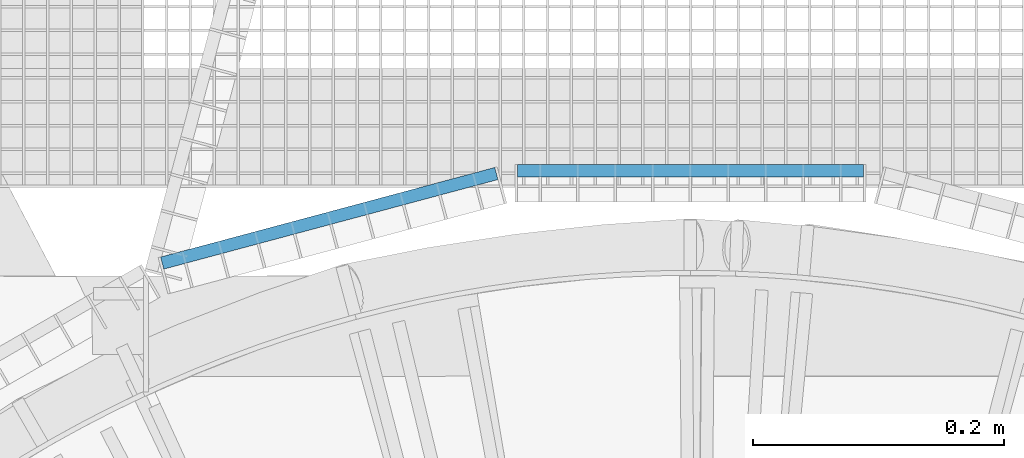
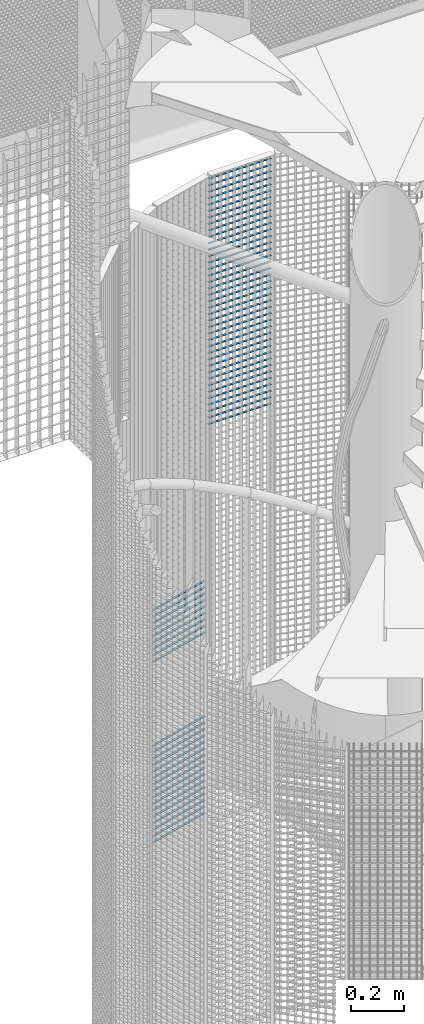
# One storey, part 318 of 1183: 64 beams, 2 elements without a shape of their own.
"""IFC2X3 building model written with IfcOpenShell, lengths in millimetres."""

from ifc_helpers import new_model, si_unit, frame, origin_with_axes, origin_2d_with_axis, place, context, subcontext, project, spatial, rectangle, extrude, material, type_object, element, aggregate, save


model = new_model("IFC2X3")

# Units and contexts
model_context = context("Model", 3, precision=1e-05, world=origin_with_axes())
body_context = subcontext(model_context, "Body", "Model", "MODEL_VIEW")
ifc_project = project(units=[si_unit("LENGTHUNIT", "METRE", prefix="MILLI"), si_unit("AREAUNIT", "SQUARE_METRE"), si_unit("VOLUMEUNIT", "CUBIC_METRE"), si_unit("MASSUNIT", "GRAM", prefix="KILO"), si_unit("TIMEUNIT", "SECOND"), si_unit("PLANEANGLEUNIT", "RADIAN"), si_unit("SOLIDANGLEUNIT", "STERADIAN"), si_unit("THERMODYNAMICTEMPERATUREUNIT", "DEGREE_CELSIUS"), si_unit("LUMINOUSINTENSITYUNIT", "LUMEN")], contexts=[model_context])

# Site, building, storey
site_placement = place(None, origin_with_axes())
site = spatial("IfcSite", under=ifc_project, at=site_placement, Name="Undefined", CompositionType="ELEMENT")
building_placement = place(site_placement, origin_with_axes())
building = spatial("IfcBuilding", under=site, at=building_placement, Name="Undefined", CompositionType="ELEMENT")
storey_placement = place(building_placement, origin_with_axes())
storey = spatial("IfcBuildingStorey", under=building, at=storey_placement, Name="Undefined", CompositionType="ELEMENT", Elevation=0.0)

# Assembly, beams
assembly_1_placement = place(storey_placement, origin_with_axes())
assembly_1 = element("IfcElementAssembly", 1, at=assembly_1_placement, inside=storey, Name="BORDURE", AssemblyPlace="NOTDEFINED", PredefinedType="NOTDEFINED")
ifc_material = material(Name="STEEL/S235JR")
beam_type = type_object("IfcBeamType", Name="PL2*10", PredefinedType="NOTDEFINED")
beam_1_placement = place(assembly_1_placement, frame((-154.895926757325, 1111.25508286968, 3480.0), z_axis=(-0.258819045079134, 0.965925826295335, 0.0), x_axis=(-0.965925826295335, -0.258819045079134, 0.0)))
beam_1 = element("IfcBeam", 2, at=beam_1_placement, type_object=beam_type, material=ifc_material, Name="ENTRETOISE", context=body_context, shape_type="SweptSolid", body=[
    extrude(rectangle(XDim=2.0, YDim=10.0, at=origin_2d_with_axis()), frame((275.999999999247, 9.09494701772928e-13, 1.53210777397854e-14), z_axis=(-1.0, 0.0, 0.0), x_axis=(0.0, -1.0, 0.0)), (0.0, 0.0, 1.0), 276.0),
])
beam_2_placement = place(assembly_1_placement, frame((-154.895926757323, 1111.25508286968, 3870.0), z_axis=(-0.258819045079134, 0.965925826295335, 0.0), x_axis=(-0.965925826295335, -0.258819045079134, 0.0)))
beam_2 = element("IfcBeam", 3, at=beam_2_placement, type_object=beam_type, material=ifc_material, Name="ENTRETOISE", context=body_context, shape_type="SweptSolid", body=[
    extrude(rectangle(XDim=2.0, YDim=10.0, at=origin_2d_with_axis()), frame((275.999999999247, 9.09494701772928e-13, 1.53210777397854e-14), z_axis=(-1.0, 0.0, 0.0), x_axis=(0.0, -1.0, 0.0)), (0.0, 0.0, 1.0), 276.0),
])
beam_3_placement = place(assembly_1_placement, frame((-154.895926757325, 1111.25508286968, 3450.0), z_axis=(-0.258819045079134, 0.965925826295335, 0.0), x_axis=(-0.965925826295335, -0.258819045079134, 0.0)))
beam_3 = element("IfcBeam", 4, at=beam_3_placement, type_object=beam_type, material=ifc_material, Name="ENTRETOISE", context=body_context, shape_type="SweptSolid", body=[
    extrude(rectangle(XDim=2.0, YDim=10.0, at=origin_2d_with_axis()), frame((275.999999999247, 9.09494701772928e-13, 1.53210777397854e-14), z_axis=(-1.0, 0.0, 0.0), x_axis=(0.0, -1.0, 0.0)), (0.0, 0.0, 1.0), 276.0),
])
beam_4_placement = place(assembly_1_placement, frame((-154.895926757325, 1111.25508286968, 3420.0), z_axis=(-0.258819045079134, 0.965925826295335, 0.0), x_axis=(-0.965925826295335, -0.258819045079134, 0.0)))
beam_4 = element("IfcBeam", 5, at=beam_4_placement, type_object=beam_type, material=ifc_material, Name="ENTRETOISE", context=body_context, shape_type="SweptSolid", body=[
    extrude(rectangle(XDim=2.0, YDim=10.0, at=origin_2d_with_axis()), frame((275.999999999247, 9.09494701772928e-13, 1.53210777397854e-14), z_axis=(-1.0, 0.0, 0.0), x_axis=(0.0, -1.0, 0.0)), (0.0, 0.0, 1.0), 276.0),
])
beam_5_placement = place(assembly_1_placement, frame((-154.895926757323, 1111.25508286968, 3900.0), z_axis=(-0.258819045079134, 0.965925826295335, 0.0), x_axis=(-0.965925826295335, -0.258819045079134, 0.0)))
beam_5 = element("IfcBeam", 6, at=beam_5_placement, type_object=beam_type, material=ifc_material, Name="ENTRETOISE", context=body_context, shape_type="SweptSolid", body=[
    extrude(rectangle(XDim=2.0, YDim=10.0, at=origin_2d_with_axis()), frame((275.999999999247, 9.09494701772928e-13, 1.53210777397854e-14), z_axis=(-1.0, 0.0, 0.0), x_axis=(0.0, -1.0, 0.0)), (0.0, 0.0, 1.0), 276.0),
])
beam_6_placement = place(assembly_1_placement, frame((-154.895926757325, 1111.25508286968, 3390.0), z_axis=(-0.258819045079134, 0.965925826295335, 0.0), x_axis=(-0.965925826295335, -0.258819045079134, 0.0)))
beam_6 = element("IfcBeam", 7, at=beam_6_placement, type_object=beam_type, material=ifc_material, Name="ENTRETOISE", context=body_context, shape_type="SweptSolid", body=[
    extrude(rectangle(XDim=2.0, YDim=10.0, at=origin_2d_with_axis()), frame((275.999999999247, 9.09494701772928e-13, 1.53210777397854e-14), z_axis=(-1.0, 0.0, 0.0), x_axis=(0.0, -1.0, 0.0)), (0.0, 0.0, 1.0), 276.0),
])
beam_7_placement = place(assembly_1_placement, frame((-154.895926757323, 1111.25508286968, 3930.0), z_axis=(-0.258819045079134, 0.965925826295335, 0.0), x_axis=(-0.965925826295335, -0.258819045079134, 0.0)))
beam_7 = element("IfcBeam", 8, at=beam_7_placement, type_object=beam_type, material=ifc_material, Name="ENTRETOISE", context=body_context, shape_type="SweptSolid", body=[
    extrude(rectangle(XDim=2.0, YDim=10.0, at=origin_2d_with_axis()), frame((275.999999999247, 9.09494701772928e-13, 1.53210777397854e-14), z_axis=(-1.0, 0.0, 0.0), x_axis=(0.0, -1.0, 0.0)), (0.0, 0.0, 1.0), 276.0),
])
beam_8_placement = place(assembly_1_placement, frame((-154.895926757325, 1111.25508286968, 3360.0), z_axis=(-0.258819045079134, 0.965925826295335, 0.0), x_axis=(-0.965925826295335, -0.258819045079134, 0.0)))
beam_8 = element("IfcBeam", 9, at=beam_8_placement, type_object=beam_type, material=ifc_material, Name="ENTRETOISE", context=body_context, shape_type="SweptSolid", body=[
    extrude(rectangle(XDim=2.0, YDim=10.0, at=origin_2d_with_axis()), frame((275.999999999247, 9.09494701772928e-13, 1.53210777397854e-14), z_axis=(-1.0, 0.0, 0.0), x_axis=(0.0, -1.0, 0.0)), (0.0, 0.0, 1.0), 276.0),
])
beam_9_placement = place(assembly_1_placement, frame((-154.895926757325, 1111.25508286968, 3330.0), z_axis=(-0.258819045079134, 0.965925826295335, 0.0), x_axis=(-0.965925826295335, -0.258819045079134, 0.0)))
beam_9 = element("IfcBeam", 10, at=beam_9_placement, type_object=beam_type, material=ifc_material, Name="ENTRETOISE", context=body_context, shape_type="SweptSolid", body=[
    extrude(rectangle(XDim=2.0, YDim=10.0, at=origin_2d_with_axis()), frame((275.999999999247, 9.09494701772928e-13, 1.53210777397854e-14), z_axis=(-1.0, 0.0, 0.0), x_axis=(0.0, -1.0, 0.0)), (0.0, 0.0, 1.0), 276.0),
])
beam_10_placement = place(assembly_1_placement, frame((-154.895926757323, 1111.25508286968, 3960.0), z_axis=(-0.258819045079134, 0.965925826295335, 0.0), x_axis=(-0.965925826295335, -0.258819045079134, 0.0)))
beam_10 = element("IfcBeam", 11, at=beam_10_placement, type_object=beam_type, material=ifc_material, Name="ENTRETOISE", context=body_context, shape_type="SweptSolid", body=[
    extrude(rectangle(XDim=2.0, YDim=10.0, at=origin_2d_with_axis()), frame((275.999999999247, 9.09494701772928e-13, 1.53210777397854e-14), z_axis=(-1.0, 0.0, 0.0), x_axis=(0.0, -1.0, 0.0)), (0.0, 0.0, 1.0), 276.0),
])
beam_11_placement = place(assembly_1_placement, frame((-154.895926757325, 1111.25508286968, 3300.0), z_axis=(-0.258819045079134, 0.965925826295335, 0.0), x_axis=(-0.965925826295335, -0.258819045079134, 0.0)))
beam_11 = element("IfcBeam", 12, at=beam_11_placement, type_object=beam_type, material=ifc_material, Name="ENTRETOISE", context=body_context, shape_type="SweptSolid", body=[
    extrude(rectangle(XDim=2.0, YDim=10.0, at=origin_2d_with_axis()), frame((275.999999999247, 9.09494701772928e-13, 1.53210777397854e-14), z_axis=(-1.0, 0.0, 0.0), x_axis=(0.0, -1.0, 0.0)), (0.0, 0.0, 1.0), 276.0),
])
beam_12_placement = place(assembly_1_placement, frame((-154.895926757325, 1111.25508286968, 3270.0), z_axis=(-0.258819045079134, 0.965925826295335, 0.0), x_axis=(-0.965925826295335, -0.258819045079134, 0.0)))
beam_12 = element("IfcBeam", 13, at=beam_12_placement, type_object=beam_type, material=ifc_material, Name="ENTRETOISE", context=body_context, shape_type="SweptSolid", body=[
    extrude(rectangle(XDim=2.0, YDim=10.0, at=origin_2d_with_axis()), frame((275.999999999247, 9.09494701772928e-13, 1.53210777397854e-14), z_axis=(-1.0, 0.0, 0.0), x_axis=(0.0, -1.0, 0.0)), (0.0, 0.0, 1.0), 276.0),
])
beam_13_placement = place(assembly_1_placement, frame((-154.895926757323, 1111.25508286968, 3990.0), z_axis=(-0.258819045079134, 0.965925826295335, 0.0), x_axis=(-0.965925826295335, -0.258819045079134, 0.0)))
beam_13 = element("IfcBeam", 14, at=beam_13_placement, type_object=beam_type, material=ifc_material, Name="ENTRETOISE", context=body_context, shape_type="SweptSolid", body=[
    extrude(rectangle(XDim=2.0, YDim=10.0, at=origin_2d_with_axis()), frame((275.999999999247, 9.09494701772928e-13, 1.53210777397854e-14), z_axis=(-1.0, 0.0, 0.0), x_axis=(0.0, -1.0, 0.0)), (0.0, 0.0, 1.0), 276.0),
])
beam_14_placement = place(assembly_1_placement, frame((-154.895926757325, 1111.25508286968, 3240.0), z_axis=(-0.258819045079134, 0.965925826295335, 0.0), x_axis=(-0.965925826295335, -0.258819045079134, 0.0)))
beam_14 = element("IfcBeam", 15, at=beam_14_placement, type_object=beam_type, material=ifc_material, Name="ENTRETOISE", context=body_context, shape_type="SweptSolid", body=[
    extrude(rectangle(XDim=2.0, YDim=10.0, at=origin_2d_with_axis()), frame((275.999999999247, 9.09494701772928e-13, 1.53210777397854e-14), z_axis=(-1.0, 0.0, 0.0), x_axis=(0.0, -1.0, 0.0)), (0.0, 0.0, 1.0), 276.0),
])
beam_15_placement = place(assembly_1_placement, frame((-154.895926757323, 1111.25508286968, 4020.0), z_axis=(-0.258819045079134, 0.965925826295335, 0.0), x_axis=(-0.965925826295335, -0.258819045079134, 0.0)))
beam_15 = element("IfcBeam", 16, at=beam_15_placement, type_object=beam_type, material=ifc_material, Name="ENTRETOISE", context=body_context, shape_type="SweptSolid", body=[
    extrude(rectangle(XDim=2.0, YDim=10.0, at=origin_2d_with_axis()), frame((275.999999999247, 9.09494701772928e-13, 1.53210777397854e-14), z_axis=(-1.0, 0.0, 0.0), x_axis=(0.0, -1.0, 0.0)), (0.0, 0.0, 1.0), 276.0),
])
beam_16_placement = place(assembly_1_placement, frame((-154.895926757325, 1111.25508286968, 3210.0), z_axis=(-0.258819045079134, 0.965925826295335, 0.0), x_axis=(-0.965925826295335, -0.258819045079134, 0.0)))
beam_16 = element("IfcBeam", 17, at=beam_16_placement, type_object=beam_type, material=ifc_material, Name="ENTRETOISE", context=body_context, shape_type="SweptSolid", body=[
    extrude(rectangle(XDim=2.0, YDim=10.0, at=origin_2d_with_axis()), frame((275.999999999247, 9.09494701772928e-13, 1.53210777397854e-14), z_axis=(-1.0, 0.0, 0.0), x_axis=(0.0, -1.0, 0.0)), (0.0, 0.0, 1.0), 276.0),
])
beam_17_placement = place(assembly_1_placement, frame((-154.895926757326, 1111.25508286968, 3180.0), z_axis=(-0.258819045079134, 0.965925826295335, 0.0), x_axis=(-0.965925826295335, -0.258819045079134, 0.0)))
beam_17 = element("IfcBeam", 18, at=beam_17_placement, type_object=beam_type, material=ifc_material, Name="ENTRETOISE", context=body_context, shape_type="SweptSolid", body=[
    extrude(rectangle(XDim=2.0, YDim=10.0, at=origin_2d_with_axis()), frame((275.999999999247, 9.09494701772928e-13, 1.53210777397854e-14), z_axis=(-1.0, 0.0, 0.0), x_axis=(0.0, -1.0, 0.0)), (0.0, 0.0, 1.0), 276.0),
])
beam_18_placement = place(assembly_1_placement, frame((-154.895926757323, 1111.25508286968, 4050.0), z_axis=(-0.258819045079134, 0.965925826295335, 0.0), x_axis=(-0.965925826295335, -0.258819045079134, 0.0)))
beam_18 = element("IfcBeam", 19, at=beam_18_placement, type_object=beam_type, material=ifc_material, Name="ENTRETOISE", context=body_context, shape_type="SweptSolid", body=[
    extrude(rectangle(XDim=2.0, YDim=10.0, at=origin_2d_with_axis()), frame((275.999999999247, 9.09494701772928e-13, 1.53210777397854e-14), z_axis=(-1.0, 0.0, 0.0), x_axis=(0.0, -1.0, 0.0)), (0.0, 0.0, 1.0), 276.0),
])
beam_19_placement = place(assembly_1_placement, frame((-154.895926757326, 1111.25508286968, 3150.0), z_axis=(-0.258819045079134, 0.965925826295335, 0.0), x_axis=(-0.965925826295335, -0.258819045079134, 0.0)))
beam_19 = element("IfcBeam", 20, at=beam_19_placement, type_object=beam_type, material=ifc_material, Name="ENTRETOISE", context=body_context, shape_type="SweptSolid", body=[
    extrude(rectangle(XDim=2.0, YDim=10.0, at=origin_2d_with_axis()), frame((275.999999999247, 9.09494701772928e-13, 1.53210777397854e-14), z_axis=(-1.0, 0.0, 0.0), x_axis=(0.0, -1.0, 0.0)), (0.0, 0.0, 1.0), 276.0),
])
beam_20_placement = place(assembly_1_placement, frame((-154.895926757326, 1111.25508286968, 3120.0), z_axis=(-0.258819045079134, 0.965925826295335, 0.0), x_axis=(-0.965925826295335, -0.258819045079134, 0.0)))
beam_20 = element("IfcBeam", 21, at=beam_20_placement, type_object=beam_type, material=ifc_material, Name="ENTRETOISE", context=body_context, shape_type="SweptSolid", body=[
    extrude(rectangle(XDim=2.0, YDim=10.0, at=origin_2d_with_axis()), frame((275.999999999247, 9.09494701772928e-13, 1.53210777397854e-14), z_axis=(-1.0, 0.0, 0.0), x_axis=(0.0, -1.0, 0.0)), (0.0, 0.0, 1.0), 276.0),
])
beam_21_placement = place(assembly_1_placement, frame((-154.895926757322, 1111.25508286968, 4080.0), z_axis=(-0.258819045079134, 0.965925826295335, 0.0), x_axis=(-0.965925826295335, -0.258819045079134, 0.0)))
beam_21 = element("IfcBeam", 22, at=beam_21_placement, type_object=beam_type, material=ifc_material, Name="ENTRETOISE", context=body_context, shape_type="SweptSolid", body=[
    extrude(rectangle(XDim=2.0, YDim=10.0, at=origin_2d_with_axis()), frame((275.999999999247, 9.09494701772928e-13, 1.53210777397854e-14), z_axis=(-1.0, 0.0, 0.0), x_axis=(0.0, -1.0, 0.0)), (0.0, 0.0, 1.0), 276.0),
])
beam_22_placement = place(assembly_1_placement, frame((-154.895926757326, 1111.25508286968, 3090.0), z_axis=(-0.258819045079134, 0.965925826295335, 0.0), x_axis=(-0.965925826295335, -0.258819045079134, 0.0)))
beam_22 = element("IfcBeam", 23, at=beam_22_placement, type_object=beam_type, material=ifc_material, Name="ENTRETOISE", context=body_context, shape_type="SweptSolid", body=[
    extrude(rectangle(XDim=2.0, YDim=10.0, at=origin_2d_with_axis()), frame((275.999999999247, 9.09494701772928e-13, 1.53210777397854e-14), z_axis=(-1.0, 0.0, 0.0), x_axis=(0.0, -1.0, 0.0)), (0.0, 0.0, 1.0), 276.0),
])
beam_23_placement = place(assembly_1_placement, frame((-154.895926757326, 1111.25508286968, 3060.0), z_axis=(-0.258819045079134, 0.965925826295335, 0.0), x_axis=(-0.965925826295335, -0.258819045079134, 0.0)))
beam_23 = element("IfcBeam", 24, at=beam_23_placement, type_object=beam_type, material=ifc_material, Name="ENTRETOISE", context=body_context, shape_type="SweptSolid", body=[
    extrude(rectangle(XDim=2.0, YDim=10.0, at=origin_2d_with_axis()), frame((275.999999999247, 9.09494701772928e-13, 1.53210777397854e-14), z_axis=(-1.0, 0.0, 0.0), x_axis=(0.0, -1.0, 0.0)), (0.0, 0.0, 1.0), 276.0),
])
beam_24_placement = place(assembly_1_placement, frame((-154.895926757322, 1111.25508286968, 4110.0), z_axis=(-0.258819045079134, 0.965925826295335, 0.0), x_axis=(-0.965925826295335, -0.258819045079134, 0.0)))
beam_24 = element("IfcBeam", 25, at=beam_24_placement, type_object=beam_type, material=ifc_material, Name="ENTRETOISE", context=body_context, shape_type="SweptSolid", body=[
    extrude(rectangle(XDim=2.0, YDim=10.0, at=origin_2d_with_axis()), frame((275.999999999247, 9.09494701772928e-13, 1.53210777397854e-14), z_axis=(-1.0, 0.0, 0.0), x_axis=(0.0, -1.0, 0.0)), (0.0, 0.0, 1.0), 276.0),
])
beam_25_placement = place(assembly_1_placement, frame((-154.895926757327, 1111.25508286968, 3030.0), z_axis=(-0.258819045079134, 0.965925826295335, 0.0), x_axis=(-0.965925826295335, -0.258819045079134, 0.0)))
beam_25 = element("IfcBeam", 26, at=beam_25_placement, type_object=beam_type, material=ifc_material, Name="ENTRETOISE", context=body_context, shape_type="SweptSolid", body=[
    extrude(rectangle(XDim=2.0, YDim=10.0, at=origin_2d_with_axis()), frame((275.999999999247, 9.09494701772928e-13, 1.53210777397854e-14), z_axis=(-1.0, 0.0, 0.0), x_axis=(0.0, -1.0, 0.0)), (0.0, 0.0, 1.0), 276.0),
])
aggregate(assembly_1, [beam_1, beam_2, beam_3, beam_4, beam_5, beam_6, beam_7, beam_8, beam_9, beam_10, beam_11, beam_12, beam_13, beam_14, beam_15, beam_16, beam_17, beam_18, beam_19, beam_20, beam_21, beam_22, beam_23, beam_24, beam_25])

assembly_2_placement = place(storey_placement, origin_with_axes())
assembly_2 = element("IfcElementAssembly", 27, at=assembly_2_placement, inside=storey, Name="BORDURE", AssemblyPlace="NOTDEFINED", PredefinedType="NOTDEFINED")
beam_26_placement = place(assembly_2_placement, frame((137.996003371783, 1113.47999999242, 5970.0), z_axis=(0.0, 1.0, 0.0), x_axis=(-1.0, 0.0, 0.0)))
beam_26 = element("IfcBeam", 28, at=beam_26_placement, type_object=beam_type, material=ifc_material, Name="ENTRETOISE", context=body_context, shape_type="SweptSolid", body=[
    extrude(rectangle(XDim=2.0, YDim=10.0, at=origin_2d_with_axis()), frame((275.999999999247, 9.09494701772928e-13, 1.53210777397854e-14), z_axis=(-1.0, 0.0, 0.0), x_axis=(0.0, -1.0, 0.0)), (0.0, 0.0, 1.0), 276.0),
])
beam_27_placement = place(assembly_2_placement, frame((137.996003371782, 1113.47999999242, 5940.0), z_axis=(0.0, 1.0, 0.0), x_axis=(-1.0, 0.0, 0.0)))
beam_27 = element("IfcBeam", 29, at=beam_27_placement, type_object=beam_type, material=ifc_material, Name="ENTRETOISE", context=body_context, shape_type="SweptSolid", body=[
    extrude(rectangle(XDim=2.0, YDim=10.0, at=origin_2d_with_axis()), frame((275.999999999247, 9.09494701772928e-13, 1.53210777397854e-14), z_axis=(-1.0, 0.0, 0.0), x_axis=(0.0, -1.0, 0.0)), (0.0, 0.0, 1.0), 276.0),
])
beam_28_placement = place(assembly_2_placement, frame((137.996003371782, 1113.47999999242, 5910.0), z_axis=(0.0, 1.0, 0.0), x_axis=(-1.0, 0.0, 0.0)))
beam_28 = element("IfcBeam", 30, at=beam_28_placement, type_object=beam_type, material=ifc_material, Name="ENTRETOISE", context=body_context, shape_type="SweptSolid", body=[
    extrude(rectangle(XDim=2.0, YDim=10.0, at=origin_2d_with_axis()), frame((275.999999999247, 9.09494701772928e-13, 1.53210777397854e-14), z_axis=(-1.0, 0.0, 0.0), x_axis=(0.0, -1.0, 0.0)), (0.0, 0.0, 1.0), 276.0),
])
beam_29_placement = place(assembly_2_placement, frame((137.996003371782, 1113.47999999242, 5880.0), z_axis=(0.0, 1.0, 0.0), x_axis=(-1.0, 0.0, 0.0)))
beam_29 = element("IfcBeam", 31, at=beam_29_placement, type_object=beam_type, material=ifc_material, Name="ENTRETOISE", context=body_context, shape_type="SweptSolid", body=[
    extrude(rectangle(XDim=2.0, YDim=10.0, at=origin_2d_with_axis()), frame((275.999999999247, 9.09494701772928e-13, 1.53210777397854e-14), z_axis=(-1.0, 0.0, 0.0), x_axis=(0.0, -1.0, 0.0)), (0.0, 0.0, 1.0), 276.0),
])
beam_30_placement = place(assembly_2_placement, frame((137.996003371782, 1113.47999999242, 5850.0), z_axis=(0.0, 1.0, 0.0), x_axis=(-1.0, 0.0, 0.0)))
beam_30 = element("IfcBeam", 32, at=beam_30_placement, type_object=beam_type, material=ifc_material, Name="ENTRETOISE", context=body_context, shape_type="SweptSolid", body=[
    extrude(rectangle(XDim=2.0, YDim=10.0, at=origin_2d_with_axis()), frame((275.999999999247, 9.09494701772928e-13, 1.53210777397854e-14), z_axis=(-1.0, 0.0, 0.0), x_axis=(0.0, -1.0, 0.0)), (0.0, 0.0, 1.0), 276.0),
])
beam_31_placement = place(assembly_2_placement, frame((137.996003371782, 1113.47999999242, 5820.0), z_axis=(0.0, 1.0, 0.0), x_axis=(-1.0, 0.0, 0.0)))
beam_31 = element("IfcBeam", 33, at=beam_31_placement, type_object=beam_type, material=ifc_material, Name="ENTRETOISE", context=body_context, shape_type="SweptSolid", body=[
    extrude(rectangle(XDim=2.0, YDim=10.0, at=origin_2d_with_axis()), frame((275.999999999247, 9.09494701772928e-13, 1.53210777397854e-14), z_axis=(-1.0, 0.0, 0.0), x_axis=(0.0, -1.0, 0.0)), (0.0, 0.0, 1.0), 276.0),
])
beam_32_placement = place(assembly_2_placement, frame((137.996003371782, 1113.47999999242, 5790.0), z_axis=(0.0, 1.0, 0.0), x_axis=(-1.0, 0.0, 0.0)))
beam_32 = element("IfcBeam", 34, at=beam_32_placement, type_object=beam_type, material=ifc_material, Name="ENTRETOISE", context=body_context, shape_type="SweptSolid", body=[
    extrude(rectangle(XDim=2.0, YDim=10.0, at=origin_2d_with_axis()), frame((275.999999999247, 9.09494701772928e-13, 1.53210777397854e-14), z_axis=(-1.0, 0.0, 0.0), x_axis=(0.0, -1.0, 0.0)), (0.0, 0.0, 1.0), 276.0),
])
beam_33_placement = place(assembly_2_placement, frame((137.996003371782, 1113.47999999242, 5760.0), z_axis=(0.0, 1.0, 0.0), x_axis=(-1.0, 0.0, 0.0)))
beam_33 = element("IfcBeam", 35, at=beam_33_placement, type_object=beam_type, material=ifc_material, Name="ENTRETOISE", context=body_context, shape_type="SweptSolid", body=[
    extrude(rectangle(XDim=2.0, YDim=10.0, at=origin_2d_with_axis()), frame((275.999999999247, 9.09494701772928e-13, 1.53210777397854e-14), z_axis=(-1.0, 0.0, 0.0), x_axis=(0.0, -1.0, 0.0)), (0.0, 0.0, 1.0), 276.0),
])
beam_34_placement = place(assembly_2_placement, frame((137.996003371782, 1113.47999999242, 5730.0), z_axis=(0.0, 1.0, 0.0), x_axis=(-1.0, 0.0, 0.0)))
beam_34 = element("IfcBeam", 36, at=beam_34_placement, type_object=beam_type, material=ifc_material, Name="ENTRETOISE", context=body_context, shape_type="SweptSolid", body=[
    extrude(rectangle(XDim=2.0, YDim=10.0, at=origin_2d_with_axis()), frame((275.999999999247, 9.09494701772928e-13, 1.53210777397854e-14), z_axis=(-1.0, 0.0, 0.0), x_axis=(0.0, -1.0, 0.0)), (0.0, 0.0, 1.0), 276.0),
])
beam_35_placement = place(assembly_2_placement, frame((137.996003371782, 1113.47999999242, 5700.0), z_axis=(0.0, 1.0, 0.0), x_axis=(-1.0, 0.0, 0.0)))
beam_35 = element("IfcBeam", 37, at=beam_35_placement, type_object=beam_type, material=ifc_material, Name="ENTRETOISE", context=body_context, shape_type="SweptSolid", body=[
    extrude(rectangle(XDim=2.0, YDim=10.0, at=origin_2d_with_axis()), frame((275.999999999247, 9.09494701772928e-13, 1.53210777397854e-14), z_axis=(-1.0, 0.0, 0.0), x_axis=(0.0, -1.0, 0.0)), (0.0, 0.0, 1.0), 276.0),
])
beam_36_placement = place(assembly_2_placement, frame((137.996003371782, 1113.47999999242, 5670.0), z_axis=(0.0, 1.0, 0.0), x_axis=(-1.0, 0.0, 0.0)))
beam_36 = element("IfcBeam", 38, at=beam_36_placement, type_object=beam_type, material=ifc_material, Name="ENTRETOISE", context=body_context, shape_type="SweptSolid", body=[
    extrude(rectangle(XDim=2.0, YDim=10.0, at=origin_2d_with_axis()), frame((275.999999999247, 9.09494701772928e-13, 1.53210777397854e-14), z_axis=(-1.0, 0.0, 0.0), x_axis=(0.0, -1.0, 0.0)), (0.0, 0.0, 1.0), 276.0),
])
beam_37_placement = place(assembly_2_placement, frame((137.996003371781, 1113.47999999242, 5640.0), z_axis=(0.0, 1.0, 0.0), x_axis=(-1.0, 0.0, 0.0)))
beam_37 = element("IfcBeam", 39, at=beam_37_placement, type_object=beam_type, material=ifc_material, Name="ENTRETOISE", context=body_context, shape_type="SweptSolid", body=[
    extrude(rectangle(XDim=2.0, YDim=10.0, at=origin_2d_with_axis()), frame((275.999999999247, 9.09494701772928e-13, 1.53210777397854e-14), z_axis=(-1.0, 0.0, 0.0), x_axis=(0.0, -1.0, 0.0)), (0.0, 0.0, 1.0), 276.0),
])
beam_38_placement = place(assembly_2_placement, frame((137.996003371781, 1113.47999999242, 5610.0), z_axis=(0.0, 1.0, 0.0), x_axis=(-1.0, 0.0, 0.0)))
beam_38 = element("IfcBeam", 40, at=beam_38_placement, type_object=beam_type, material=ifc_material, Name="ENTRETOISE", context=body_context, shape_type="SweptSolid", body=[
    extrude(rectangle(XDim=2.0, YDim=10.0, at=origin_2d_with_axis()), frame((275.999999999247, 9.09494701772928e-13, 1.53210777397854e-14), z_axis=(-1.0, 0.0, 0.0), x_axis=(0.0, -1.0, 0.0)), (0.0, 0.0, 1.0), 276.0),
])
beam_39_placement = place(assembly_2_placement, frame((137.996003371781, 1113.47999999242, 5580.0), z_axis=(0.0, 1.0, 0.0), x_axis=(-1.0, 0.0, 0.0)))
beam_39 = element("IfcBeam", 41, at=beam_39_placement, type_object=beam_type, material=ifc_material, Name="ENTRETOISE", context=body_context, shape_type="SweptSolid", body=[
    extrude(rectangle(XDim=2.0, YDim=10.0, at=origin_2d_with_axis()), frame((275.999999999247, 9.09494701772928e-13, 1.53210777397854e-14), z_axis=(-1.0, 0.0, 0.0), x_axis=(0.0, -1.0, 0.0)), (0.0, 0.0, 1.0), 276.0),
])
beam_40_placement = place(assembly_2_placement, frame((137.996003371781, 1113.47999999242, 5550.0), z_axis=(0.0, 1.0, 0.0), x_axis=(-1.0, 0.0, 0.0)))
beam_40 = element("IfcBeam", 42, at=beam_40_placement, type_object=beam_type, material=ifc_material, Name="ENTRETOISE", context=body_context, shape_type="SweptSolid", body=[
    extrude(rectangle(XDim=2.0, YDim=10.0, at=origin_2d_with_axis()), frame((275.999999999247, 9.09494701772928e-13, 1.53210777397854e-14), z_axis=(-1.0, 0.0, 0.0), x_axis=(0.0, -1.0, 0.0)), (0.0, 0.0, 1.0), 276.0),
])
beam_41_placement = place(assembly_2_placement, frame((137.996003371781, 1113.47999999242, 5520.0), z_axis=(0.0, 1.0, 0.0), x_axis=(-1.0, 0.0, 0.0)))
beam_41 = element("IfcBeam", 43, at=beam_41_placement, type_object=beam_type, material=ifc_material, Name="ENTRETOISE", context=body_context, shape_type="SweptSolid", body=[
    extrude(rectangle(XDim=2.0, YDim=10.0, at=origin_2d_with_axis()), frame((275.999999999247, 9.09494701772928e-13, 1.53210777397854e-14), z_axis=(-1.0, 0.0, 0.0), x_axis=(0.0, -1.0, 0.0)), (0.0, 0.0, 1.0), 276.0),
])
beam_42_placement = place(assembly_2_placement, frame((137.996003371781, 1113.47999999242, 5490.0), z_axis=(0.0, 1.0, 0.0), x_axis=(-1.0, 0.0, 0.0)))
beam_42 = element("IfcBeam", 44, at=beam_42_placement, type_object=beam_type, material=ifc_material, Name="ENTRETOISE", context=body_context, shape_type="SweptSolid", body=[
    extrude(rectangle(XDim=2.0, YDim=10.0, at=origin_2d_with_axis()), frame((275.999999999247, 9.09494701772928e-13, 1.53210777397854e-14), z_axis=(-1.0, 0.0, 0.0), x_axis=(0.0, -1.0, 0.0)), (0.0, 0.0, 1.0), 276.0),
])
beam_43_placement = place(assembly_2_placement, frame((137.996003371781, 1113.47999999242, 5460.0), z_axis=(0.0, 1.0, 0.0), x_axis=(-1.0, 0.0, 0.0)))
beam_43 = element("IfcBeam", 45, at=beam_43_placement, type_object=beam_type, material=ifc_material, Name="ENTRETOISE", context=body_context, shape_type="SweptSolid", body=[
    extrude(rectangle(XDim=2.0, YDim=10.0, at=origin_2d_with_axis()), frame((275.999999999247, 9.09494701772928e-13, 1.53210777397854e-14), z_axis=(-1.0, 0.0, 0.0), x_axis=(0.0, -1.0, 0.0)), (0.0, 0.0, 1.0), 276.0),
])
beam_44_placement = place(assembly_2_placement, frame((137.996003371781, 1113.47999999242, 5430.0), z_axis=(0.0, 1.0, 0.0), x_axis=(-1.0, 0.0, 0.0)))
beam_44 = element("IfcBeam", 46, at=beam_44_placement, type_object=beam_type, material=ifc_material, Name="ENTRETOISE", context=body_context, shape_type="SweptSolid", body=[
    extrude(rectangle(XDim=2.0, YDim=10.0, at=origin_2d_with_axis()), frame((275.999999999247, 9.09494701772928e-13, 1.53210777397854e-14), z_axis=(-1.0, 0.0, 0.0), x_axis=(0.0, -1.0, 0.0)), (0.0, 0.0, 1.0), 276.0),
])
beam_45_placement = place(assembly_2_placement, frame((137.99600337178, 1113.47999999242, 5400.0), z_axis=(0.0, 1.0, 0.0), x_axis=(-1.0, 0.0, 0.0)))
beam_45 = element("IfcBeam", 47, at=beam_45_placement, type_object=beam_type, material=ifc_material, Name="ENTRETOISE", context=body_context, shape_type="SweptSolid", body=[
    extrude(rectangle(XDim=2.0, YDim=10.0, at=origin_2d_with_axis()), frame((275.999999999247, 9.09494701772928e-13, 1.53210777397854e-14), z_axis=(-1.0, 0.0, 0.0), x_axis=(0.0, -1.0, 0.0)), (0.0, 0.0, 1.0), 276.0),
])
beam_46_placement = place(assembly_2_placement, frame((137.99600337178, 1113.47999999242, 5370.0), z_axis=(0.0, 1.0, 0.0), x_axis=(-1.0, 0.0, 0.0)))
beam_46 = element("IfcBeam", 48, at=beam_46_placement, type_object=beam_type, material=ifc_material, Name="ENTRETOISE", context=body_context, shape_type="SweptSolid", body=[
    extrude(rectangle(XDim=2.0, YDim=10.0, at=origin_2d_with_axis()), frame((275.999999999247, 9.09494701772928e-13, 1.53210777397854e-14), z_axis=(-1.0, 0.0, 0.0), x_axis=(0.0, -1.0, 0.0)), (0.0, 0.0, 1.0), 276.0),
])
beam_47_placement = place(assembly_2_placement, frame((137.99600337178, 1113.47999999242, 5340.0), z_axis=(0.0, 1.0, 0.0), x_axis=(-1.0, 0.0, 0.0)))
beam_47 = element("IfcBeam", 49, at=beam_47_placement, type_object=beam_type, material=ifc_material, Name="ENTRETOISE", context=body_context, shape_type="SweptSolid", body=[
    extrude(rectangle(XDim=2.0, YDim=10.0, at=origin_2d_with_axis()), frame((275.999999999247, 9.09494701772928e-13, 1.53210777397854e-14), z_axis=(-1.0, 0.0, 0.0), x_axis=(0.0, -1.0, 0.0)), (0.0, 0.0, 1.0), 276.0),
])
beam_48_placement = place(assembly_2_placement, frame((137.99600337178, 1113.47999999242, 5310.0), z_axis=(0.0, 1.0, 0.0), x_axis=(-1.0, 0.0, 0.0)))
beam_48 = element("IfcBeam", 50, at=beam_48_placement, type_object=beam_type, material=ifc_material, Name="ENTRETOISE", context=body_context, shape_type="SweptSolid", body=[
    extrude(rectangle(XDim=2.0, YDim=10.0, at=origin_2d_with_axis()), frame((275.999999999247, 9.09494701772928e-13, 1.53210777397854e-14), z_axis=(-1.0, 0.0, 0.0), x_axis=(0.0, -1.0, 0.0)), (0.0, 0.0, 1.0), 276.0),
])
beam_49_placement = place(assembly_2_placement, frame((137.99600337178, 1113.47999999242, 5280.0), z_axis=(0.0, 1.0, 0.0), x_axis=(-1.0, 0.0, 0.0)))
beam_49 = element("IfcBeam", 51, at=beam_49_placement, type_object=beam_type, material=ifc_material, Name="ENTRETOISE", context=body_context, shape_type="SweptSolid", body=[
    extrude(rectangle(XDim=2.0, YDim=10.0, at=origin_2d_with_axis()), frame((275.999999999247, 9.09494701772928e-13, 1.53210777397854e-14), z_axis=(-1.0, 0.0, 0.0), x_axis=(0.0, -1.0, 0.0)), (0.0, 0.0, 1.0), 276.0),
])
beam_50_placement = place(assembly_2_placement, frame((137.99600337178, 1113.47999999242, 5250.0), z_axis=(0.0, 1.0, 0.0), x_axis=(-1.0, 0.0, 0.0)))
beam_50 = element("IfcBeam", 52, at=beam_50_placement, type_object=beam_type, material=ifc_material, Name="ENTRETOISE", context=body_context, shape_type="SweptSolid", body=[
    extrude(rectangle(XDim=2.0, YDim=10.0, at=origin_2d_with_axis()), frame((275.999999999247, 9.09494701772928e-13, 1.53210777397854e-14), z_axis=(-1.0, 0.0, 0.0), x_axis=(0.0, -1.0, 0.0)), (0.0, 0.0, 1.0), 276.0),
])
beam_51_placement = place(assembly_2_placement, frame((137.99600337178, 1113.47999999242, 5220.0), z_axis=(0.0, 1.0, 0.0), x_axis=(-1.0, 0.0, 0.0)))
beam_51 = element("IfcBeam", 53, at=beam_51_placement, type_object=beam_type, material=ifc_material, Name="ENTRETOISE", context=body_context, shape_type="SweptSolid", body=[
    extrude(rectangle(XDim=2.0, YDim=10.0, at=origin_2d_with_axis()), frame((275.999999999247, 9.09494701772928e-13, 1.53210777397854e-14), z_axis=(-1.0, 0.0, 0.0), x_axis=(0.0, -1.0, 0.0)), (0.0, 0.0, 1.0), 276.0),
])
beam_52_placement = place(assembly_2_placement, frame((137.99600337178, 1113.47999999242, 5190.0), z_axis=(0.0, 1.0, 0.0), x_axis=(-1.0, 0.0, 0.0)))
beam_52 = element("IfcBeam", 54, at=beam_52_placement, type_object=beam_type, material=ifc_material, Name="ENTRETOISE", context=body_context, shape_type="SweptSolid", body=[
    extrude(rectangle(XDim=2.0, YDim=10.0, at=origin_2d_with_axis()), frame((275.999999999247, 9.09494701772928e-13, 1.53210777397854e-14), z_axis=(-1.0, 0.0, 0.0), x_axis=(0.0, -1.0, 0.0)), (0.0, 0.0, 1.0), 276.0),
])
beam_53_placement = place(assembly_2_placement, frame((137.99600337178, 1113.47999999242, 5160.0), z_axis=(0.0, 1.0, 0.0), x_axis=(-1.0, 0.0, 0.0)))
beam_53 = element("IfcBeam", 55, at=beam_53_placement, type_object=beam_type, material=ifc_material, Name="ENTRETOISE", context=body_context, shape_type="SweptSolid", body=[
    extrude(rectangle(XDim=2.0, YDim=10.0, at=origin_2d_with_axis()), frame((275.999999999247, 9.09494701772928e-13, 1.53210777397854e-14), z_axis=(-1.0, 0.0, 0.0), x_axis=(0.0, -1.0, 0.0)), (0.0, 0.0, 1.0), 276.0),
])
beam_54_placement = place(assembly_2_placement, frame((137.99600337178, 1113.47999999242, 5130.0), z_axis=(0.0, 1.0, 0.0), x_axis=(-1.0, 0.0, 0.0)))
beam_54 = element("IfcBeam", 56, at=beam_54_placement, type_object=beam_type, material=ifc_material, Name="ENTRETOISE", context=body_context, shape_type="SweptSolid", body=[
    extrude(rectangle(XDim=2.0, YDim=10.0, at=origin_2d_with_axis()), frame((275.999999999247, 9.09494701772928e-13, 1.53210777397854e-14), z_axis=(-1.0, 0.0, 0.0), x_axis=(0.0, -1.0, 0.0)), (0.0, 0.0, 1.0), 276.0),
])
beam_55_placement = place(assembly_2_placement, frame((137.996003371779, 1113.47999999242, 5100.0), z_axis=(0.0, 1.0, 0.0), x_axis=(-1.0, 0.0, 0.0)))
beam_55 = element("IfcBeam", 57, at=beam_55_placement, type_object=beam_type, material=ifc_material, Name="ENTRETOISE", context=body_context, shape_type="SweptSolid", body=[
    extrude(rectangle(XDim=2.0, YDim=10.0, at=origin_2d_with_axis()), frame((275.999999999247, 9.09494701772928e-13, 1.53210777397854e-14), z_axis=(-1.0, 0.0, 0.0), x_axis=(0.0, -1.0, 0.0)), (0.0, 0.0, 1.0), 276.0),
])
beam_56_placement = place(assembly_2_placement, frame((137.996003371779, 1113.47999999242, 5070.0), z_axis=(0.0, 1.0, 0.0), x_axis=(-1.0, 0.0, 0.0)))
beam_56 = element("IfcBeam", 58, at=beam_56_placement, type_object=beam_type, material=ifc_material, Name="ENTRETOISE", context=body_context, shape_type="SweptSolid", body=[
    extrude(rectangle(XDim=2.0, YDim=10.0, at=origin_2d_with_axis()), frame((275.999999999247, 9.09494701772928e-13, 1.53210777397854e-14), z_axis=(-1.0, 0.0, 0.0), x_axis=(0.0, -1.0, 0.0)), (0.0, 0.0, 1.0), 276.0),
])
beam_57_placement = place(assembly_2_placement, frame((137.996003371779, 1113.47999999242, 5040.0), z_axis=(0.0, 1.0, 0.0), x_axis=(-1.0, 0.0, 0.0)))
beam_57 = element("IfcBeam", 59, at=beam_57_placement, type_object=beam_type, material=ifc_material, Name="ENTRETOISE", context=body_context, shape_type="SweptSolid", body=[
    extrude(rectangle(XDim=2.0, YDim=10.0, at=origin_2d_with_axis()), frame((275.999999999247, 9.09494701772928e-13, 1.53210777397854e-14), z_axis=(-1.0, 0.0, 0.0), x_axis=(0.0, -1.0, 0.0)), (0.0, 0.0, 1.0), 276.0),
])
beam_58_placement = place(assembly_2_placement, frame((137.996003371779, 1113.47999999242, 5010.0), z_axis=(0.0, 1.0, 0.0), x_axis=(-1.0, 0.0, 0.0)))
beam_58 = element("IfcBeam", 60, at=beam_58_placement, type_object=beam_type, material=ifc_material, Name="ENTRETOISE", context=body_context, shape_type="SweptSolid", body=[
    extrude(rectangle(XDim=2.0, YDim=10.0, at=origin_2d_with_axis()), frame((275.999999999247, 9.09494701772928e-13, 1.53210777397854e-14), z_axis=(-1.0, 0.0, 0.0), x_axis=(0.0, -1.0, 0.0)), (0.0, 0.0, 1.0), 276.0),
])
beam_59_placement = place(assembly_2_placement, frame((137.996003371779, 1113.47999999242, 4980.0), z_axis=(0.0, 1.0, 0.0), x_axis=(-1.0, 0.0, 0.0)))
beam_59 = element("IfcBeam", 61, at=beam_59_placement, type_object=beam_type, material=ifc_material, Name="ENTRETOISE", context=body_context, shape_type="SweptSolid", body=[
    extrude(rectangle(XDim=2.0, YDim=10.0, at=origin_2d_with_axis()), frame((275.999999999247, 9.09494701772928e-13, 1.53210777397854e-14), z_axis=(-1.0, 0.0, 0.0), x_axis=(0.0, -1.0, 0.0)), (0.0, 0.0, 1.0), 276.0),
])
beam_60_placement = place(assembly_2_placement, frame((137.996003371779, 1113.47999999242, 4950.0), z_axis=(0.0, 1.0, 0.0), x_axis=(-1.0, 0.0, 0.0)))
beam_60 = element("IfcBeam", 62, at=beam_60_placement, type_object=beam_type, material=ifc_material, Name="ENTRETOISE", context=body_context, shape_type="SweptSolid", body=[
    extrude(rectangle(XDim=2.0, YDim=10.0, at=origin_2d_with_axis()), frame((275.999999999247, 9.09494701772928e-13, 1.53210777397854e-14), z_axis=(-1.0, 0.0, 0.0), x_axis=(0.0, -1.0, 0.0)), (0.0, 0.0, 1.0), 276.0),
])
beam_61_placement = place(assembly_2_placement, frame((137.996003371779, 1113.47999999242, 4920.0), z_axis=(0.0, 1.0, 0.0), x_axis=(-1.0, 0.0, 0.0)))
beam_61 = element("IfcBeam", 63, at=beam_61_placement, type_object=beam_type, material=ifc_material, Name="ENTRETOISE", context=body_context, shape_type="SweptSolid", body=[
    extrude(rectangle(XDim=2.0, YDim=10.0, at=origin_2d_with_axis()), frame((275.999999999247, 9.09494701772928e-13, 1.53210777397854e-14), z_axis=(-1.0, 0.0, 0.0), x_axis=(0.0, -1.0, 0.0)), (0.0, 0.0, 1.0), 276.0),
])
beam_62_placement = place(assembly_2_placement, frame((137.996003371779, 1113.47999999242, 4890.0), z_axis=(0.0, 1.0, 0.0), x_axis=(-1.0, 0.0, 0.0)))
beam_62 = element("IfcBeam", 64, at=beam_62_placement, type_object=beam_type, material=ifc_material, Name="ENTRETOISE", context=body_context, shape_type="SweptSolid", body=[
    extrude(rectangle(XDim=2.0, YDim=10.0, at=origin_2d_with_axis()), frame((275.999999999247, 9.09494701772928e-13, 1.53210777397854e-14), z_axis=(-1.0, 0.0, 0.0), x_axis=(0.0, -1.0, 0.0)), (0.0, 0.0, 1.0), 276.0),
])
beam_63_placement = place(assembly_2_placement, frame((137.996003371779, 1113.47999999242, 4860.0), z_axis=(0.0, 1.0, 0.0), x_axis=(-1.0, 0.0, 0.0)))
beam_63 = element("IfcBeam", 65, at=beam_63_placement, type_object=beam_type, material=ifc_material, Name="ENTRETOISE", context=body_context, shape_type="SweptSolid", body=[
    extrude(rectangle(XDim=2.0, YDim=10.0, at=origin_2d_with_axis()), frame((275.999999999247, 9.09494701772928e-13, 1.53210777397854e-14), z_axis=(-1.0, 0.0, 0.0), x_axis=(0.0, -1.0, 0.0)), (0.0, 0.0, 1.0), 276.0),
])
beam_64_placement = place(assembly_2_placement, frame((137.996003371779, 1113.47999999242, 4830.0), z_axis=(0.0, 1.0, 0.0), x_axis=(-1.0, 0.0, 0.0)))
beam_64 = element("IfcBeam", 66, at=beam_64_placement, type_object=beam_type, material=ifc_material, Name="ENTRETOISE", context=body_context, shape_type="SweptSolid", body=[
    extrude(rectangle(XDim=2.0, YDim=10.0, at=origin_2d_with_axis()), frame((275.999999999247, 9.09494701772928e-13, 1.53210777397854e-14), z_axis=(-1.0, 0.0, 0.0), x_axis=(0.0, -1.0, 0.0)), (0.0, 0.0, 1.0), 276.0),
])
aggregate(assembly_2, [beam_26, beam_27, beam_28, beam_29, beam_30, beam_31, beam_32, beam_33, beam_34, beam_35, beam_36, beam_37, beam_38, beam_39, beam_40, beam_41, beam_42, beam_43, beam_44, beam_45, beam_46, beam_47, beam_48, beam_49, beam_50, beam_51, beam_52, beam_53, beam_54, beam_55, beam_56, beam_57, beam_58, beam_59, beam_60, beam_61, beam_62, beam_63, beam_64])

save(model, "model.ifc")
